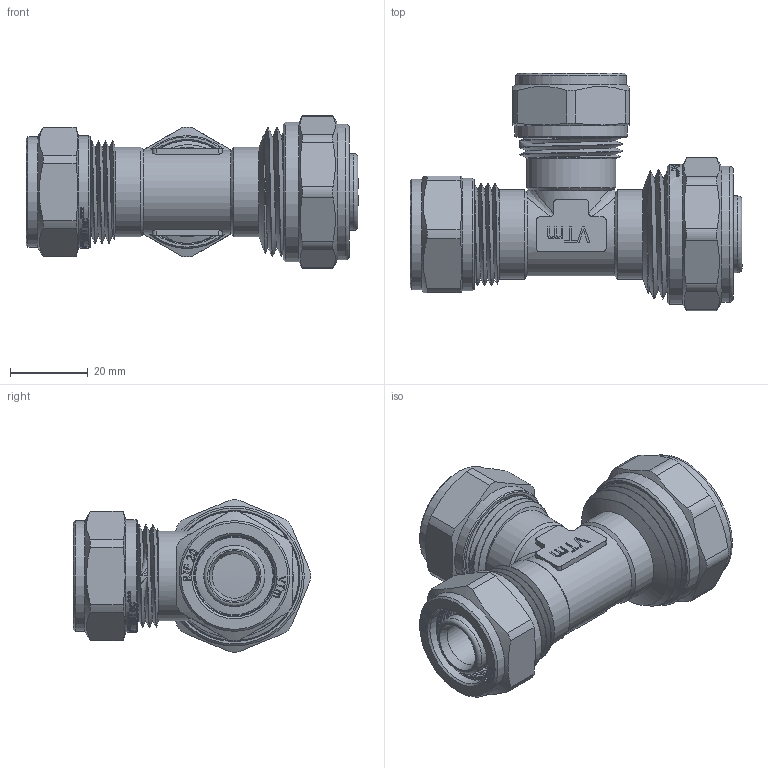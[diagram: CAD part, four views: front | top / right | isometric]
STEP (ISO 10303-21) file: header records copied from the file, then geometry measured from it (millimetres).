
FILE_DESCRIPTION(/* description */ (''),/* implementation_level */ '2;1');
FILE_NAME(/* name */ 'E:\Артём\00000\Работа удаленка\Обжимные фитинги\VTm.331.N.262020.stp',/* time_stamp */ '2020-06-30T13:06:02+03:00',/* author */ ('BeN_GaN'),/* organization */ (''),/* preprocessor_version */ 'ST-DEVELOPER v18',/* originating_system */ 'Autodesk Inventor 2020',/* authorisation */ '');
FILE_SCHEMA (('AUTOMOTIVE_DESIGN { 1 0 10303 214 3 1 1 }'));
Length unit declared in the file: millimetre
Products named in the file (1): VTm.331.N.262020
Bounding box: 85.5 x 61.19 x 39.39 mm (x, y, z)
Volume: 45744.4 mm3; surface area: 33891.6 mm2
Topology: 2 solids, 4 shells, 2007 faces, 5662 edges, 3820 vertices
Faces by surface type: bspline 1088, plane 553, cylinder 251, torus 68, cone 47
Full cylindrical faces by diameter (mm): 11.5 x2, 13.4 x4, 15 x1, 15.75 x8, 17.4 x2, 19.8 x5, 19.986 x8, 20.2 x2, 20.728 x10, 21 x2, 23 x14, 23.201 x2, 24.2 x4, 24.516 x4, 25.435 x5, 26.2 x1, 26.4 x6, 26.7 x1, 28.5 x3, 28.7 x4, 29 x2, 30.5 x2, 33.3 x1, 35 x1, 36 x1
Entity records: 88135 total; most frequent: CARTESIAN_POINT 43068, ORIENTED_EDGE 11336, DIRECTION 5998, EDGE_CURVE 5668, VERTEX_POINT 3826, LINE 2396, VECTOR 2396, B_SPLINE_CURVE_WITH_KNOTS 2347
